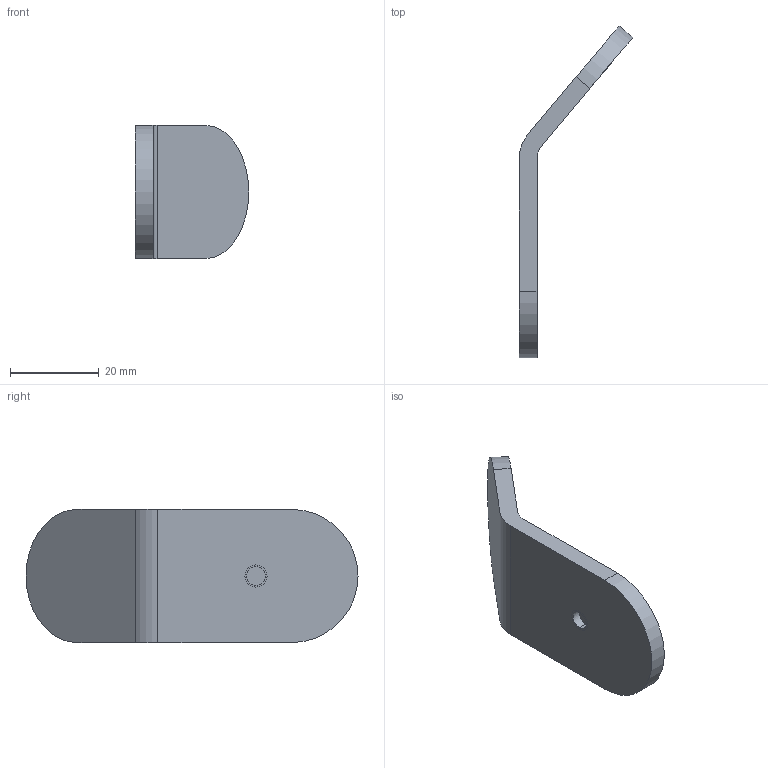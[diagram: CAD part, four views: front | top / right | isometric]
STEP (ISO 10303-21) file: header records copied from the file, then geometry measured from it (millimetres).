
FILE_DESCRIPTION((''),'2;1');
FILE_NAME('20230527-5401','2023-05-27T17:40:14',('Administrator'),(''),'CREO PARAMETRIC BY PTC INC, 2019471','CREO PARAMETRIC BY PTC INC, 2019471','');
FILE_SCHEMA(('CONFIG_CONTROL_DESIGN'));
Length unit declared in the file: millimetre
Products named in the file (1): 20230527-5401
Bounding box: 25.56 x 74.81 x 30 mm (x, y, z)
Volume: 8963.6 mm3; surface area: 5341.4 mm2
Topology: 1 solids, 2 shells, 15 faces, 36 edges, 24 vertices
Faces by surface type: cylinder 8, plane 7
Entity records: 490 total; most frequent: DIRECTION 84, CARTESIAN_POINT 76, ORIENTED_EDGE 68, EDGE_CURVE 36, AXIS2_PLACEMENT_3D 32, VERTEX_POINT 24, VECTOR 20, LINE 20
